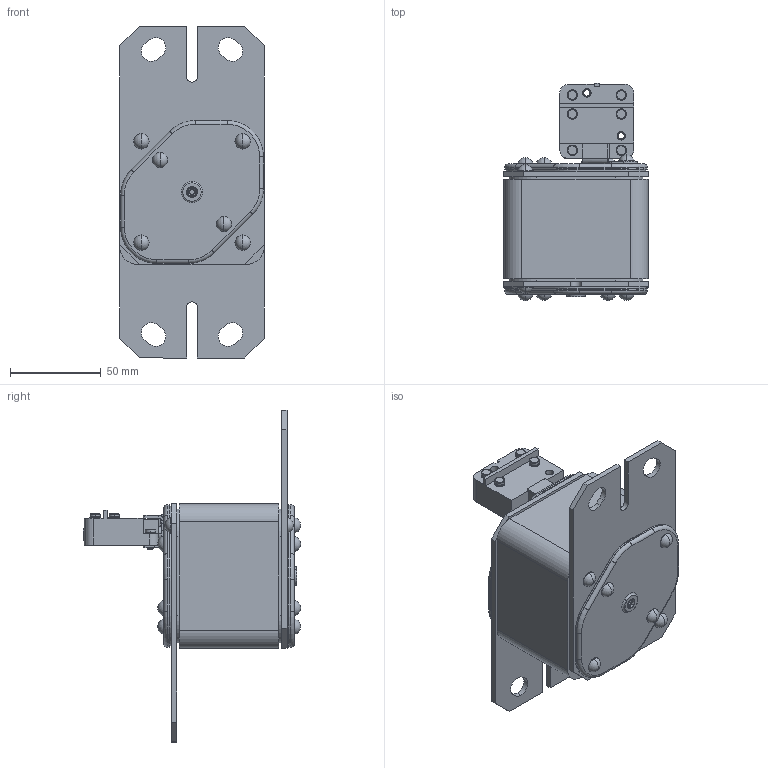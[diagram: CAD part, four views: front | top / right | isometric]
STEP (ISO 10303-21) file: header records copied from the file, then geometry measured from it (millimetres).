
FILE_DESCRIPTION (( 'STEP AP214' ), '1' );
FILE_NAME ('砎槼隰譇膻蠈錪 珫57-39391-XXXA-XXXX-忡曖.STEP', '2023-05-17T07:58:08', ( '' ), ( '' ), 'SwSTEP 2.0', 'SolidWorks 2018', '' );
FILE_SCHEMA (( 'AUTOMOTIVE_DESIGN' ));
Length unit declared in the file: millimetre
Products named in the file (1): 砎槼隰譇膻蠈錪 珫57-39391-XXXA-XXXX-忡曖
Bounding box: 80 x 120 x 183.42 mm (x, y, z)
Volume: 472151.3 mm3; surface area: 76476.3 mm2
Topology: 1 solids, 27 shells, 878 faces, 2088 edges, 1308 vertices
Faces by surface type: plane 380, cylinder 340, torus 90, cone 44, sphere 24
Entity records: 35863 total; most frequent: CARTESIAN_POINT 5029, DIRECTION 4760, ORIENTED_EDGE 4176, EDGE_CURVE 2088, AXIS2_PLACEMENT_3D 1853, VERTEX_POINT 1308, LINE 1054, VECTOR 1054
